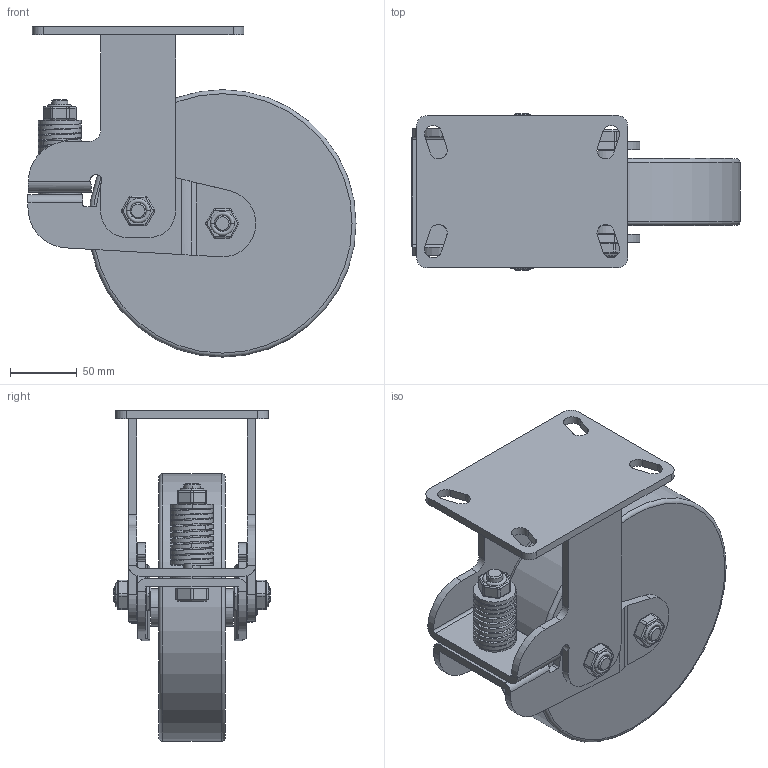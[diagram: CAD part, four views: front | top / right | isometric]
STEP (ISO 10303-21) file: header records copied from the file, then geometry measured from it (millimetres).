
FILE_DESCRIPTION(/* description */ (''),/* implementation_level */ '2;1');
FILE_NAME(/* name */ '45C38_8_F.stp',/* time_stamp */ '2022-10-07T11:08:28+08:00',/* author */ (''),/* organization */ (''),/* preprocessor_version */ 'ST-DEVELOPER v14',/* originating_system */ 'SIEMENS PLM Software NX 8.0',/* authorisation */ '');
FILE_SCHEMA (('AUTOMOTIVE_DESIGN { 1 0 10303 214 3 1 1 1 }'));
Length unit declared in the file: millimetre
Products named in the file (1): 45C38_8_F
Bounding box: 245.35 x 117.38 x 247 mm (x, y, z)
Volume: 1981403.2 mm3; surface area: 248588.4 mm2
Topology: 1 solids, 5 shells, 674 faces, 1719 edges, 1088 vertices
Faces by surface type: plane 313, cylinder 231, bspline 48, torus 46, cone 36
Full cylindrical faces by diameter (mm): 200 x1
Entity records: 25098 total; most frequent: CARTESIAN_POINT 8916, ORIENTED_EDGE 3432, DIRECTION 3337, EDGE_CURVE 1716, AXIS2_PLACEMENT_3D 1260, VERTEX_POINT 1088, LINE 817, VECTOR 817
